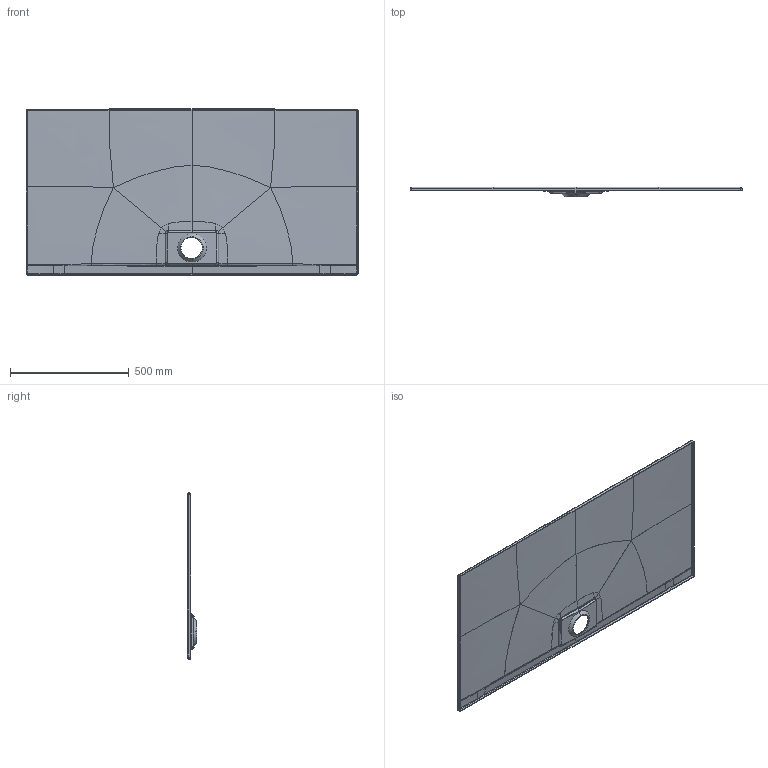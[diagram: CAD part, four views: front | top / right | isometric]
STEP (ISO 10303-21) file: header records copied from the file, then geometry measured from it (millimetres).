
FILE_DESCRIPTION((''),'2;1');
FILE_NAME('MASTER-FILE_1400X700','2015-11-25T',('grootj'),('Villeroy & Boch Wellness bv'),'CREO PARAMETRIC BY PTC INC, 2015290','CREO PARAMETRIC BY PTC INC, 2015290','');
FILE_SCHEMA(('CONFIG_CONTROL_DESIGN'));
Length unit declared in the file: millimetre
Products named in the file (1): MASTER-FILE_1400X700
Bounding box: 1400 x 40 x 700 mm (x, y, z)
Volume: 3079163.1 mm3; surface area: 2067833.8 mm2
Topology: 1 solids, 3 shells, 245 faces, 565 edges, 322 vertices
Faces by surface type: bspline 188, cylinder 26, plane 23, cone 8
Entity records: 16829 total; most frequent: CARTESIAN_POINT 12561, ORIENTED_EDGE 1122, EDGE_CURVE 565, DIRECTION 469, VERTEX_POINT 322, B_SPLINE_CURVE_WITH_KNOTS 321, EDGE_LOOP 247, FACE_OUTER_BOUND 245
